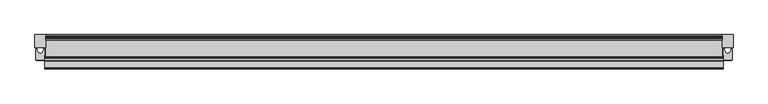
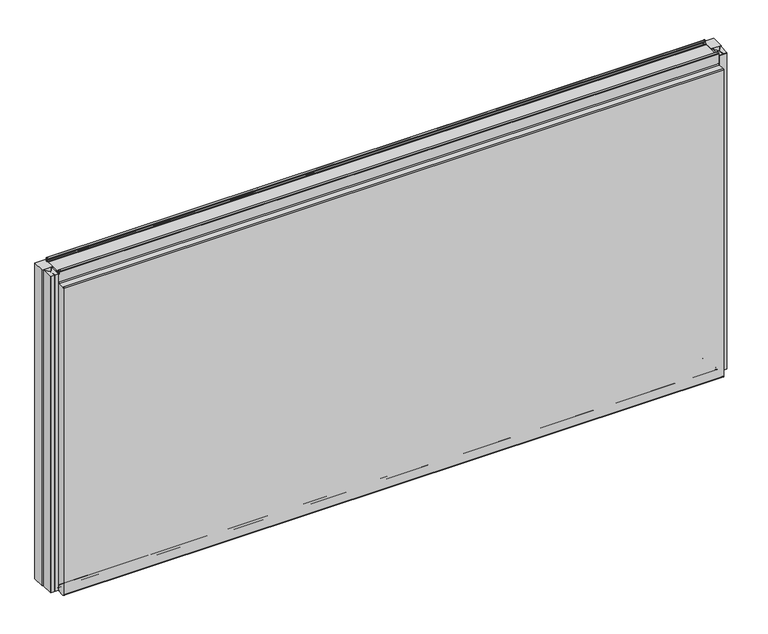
"""IFC4 building model written with IfcOpenShell, lengths in millimetres: plate geometry, Fronttop : Fronttop 100/1000."""

import ifcopenshell
import ifcopenshell.guid

model = None  # the IFC model being written
_history = None  # IfcOwnerHistory: only IFC2X3 demands one
_inside = {}  # id of a spatial element -> (the spatial element, [elements in it])
_under = {}  # id of a project, library or spatial element -> (it, [spatial elements below it])
_declared = {}  # id of a project -> (the project, [libraries it declares])
_typed = {}  # id of a type object -> (the type object, [elements of that type])
_made_of = {}  # id of a material, layer set ... -> (it, [elements and type objects made of it])


def new_model(schema):
    """Start an empty IFC model of exactly this schema.

    Asked for "IFC4X3", IfcOpenShell would pick the latest addendum, in which some entities
    have other attributes; the version numbers below select the first issue.
    IFC2X3 requires an IfcOwnerHistory on every rooted entity: one is made here for all.
    """
    global model, _history
    if schema == "IFC4X3":
        model = ifcopenshell.file(schema_version=(4, 3, 0, 0))
    else:
        model = ifcopenshell.file(schema=schema)
    _inside.clear()
    _under.clear()
    _declared.clear()
    _typed.clear()
    _made_of.clear()
    _history = None
    if model.schema == "IFC2X3":
        org = make("IfcOrganization", Name="unknown")
        user = make(
            "IfcPersonAndOrganization",
            ThePerson=make("IfcPerson", FamilyName="unknown"),
            TheOrganization=org,
        )
        app = make(
            "IfcApplication",
            ApplicationDeveloper=org,
            Version="unknown",
            ApplicationFullName="unknown",
            ApplicationIdentifier="unknown",
        )
        _history = make(
            "IfcOwnerHistory",
            OwningUser=user,
            OwningApplication=app,
            ChangeAction="ADDED",
            CreationDate=0,
        )
    return model


def make(cls, **values):
    """One entity of the class cls with the attributes given. An attribute that is None is left unset."""
    return model.create_entity(
        cls, **{name: value for name, value in values.items() if value is not None}
    )


def rooted(cls, **values):
    """An entity with a GlobalId (a new one), such as an element, a storey or a relation."""
    return make(cls, GlobalId=ifcopenshell.guid.new(), OwnerHistory=_history, **values)


def si_unit(unit_type, name, prefix=None):
    """IfcSIUnit, for example si_unit("LENGTHUNIT", "METRE", prefix="MILLI")."""
    return make("IfcSIUnit", UnitType=unit_type, Prefix=prefix, Name=name)


def assignment(units):
    """IfcUnitAssignment: the units of a project."""
    return None if units is None else make("IfcUnitAssignment", Units=units)


def point(xyz):
    """IfcCartesianPoint."""
    return None if xyz is None else make("IfcCartesianPoint", Coordinates=xyz)


def direction(xyz):
    """IfcDirection."""
    return None if xyz is None else make("IfcDirection", DirectionRatios=xyz)


def frame(location, z_axis=None, x_axis=None):
    """IfcAxis2Placement3D, a coordinate frame: its origin and axes. An axis left out is left unset."""
    return make(
        "IfcAxis2Placement3D",
        Location=point(location),
        Axis=direction(z_axis),
        RefDirection=direction(x_axis),
    )


def frame_2d(location, x_axis=None):
    """IfcAxis2Placement2D, a coordinate frame in the plane: its origin and x axis."""
    return make(
        "IfcAxis2Placement2D", Location=point(location), RefDirection=direction(x_axis)
    )


def origin():
    """The frame at (0, 0, 0) with its axes left unset."""
    return frame((0.0, 0.0, 0.0))


def origin_with_axes():
    """The frame at (0, 0, 0) with the z axis (0, 0, 1) and the x axis (1, 0, 0) written out."""
    return frame((0.0, 0.0, 0.0), z_axis=(0.0, 0.0, 1.0), x_axis=(1.0, 0.0, 0.0))


def place(relative_to, where):
    """IfcLocalPlacement: puts the frame where relative to a parent placement (None: the world)."""
    return make(
        "IfcLocalPlacement", PlacementRelTo=relative_to, RelativePlacement=where
    )


def context(
    kind, dimensions, precision=None, world=None, true_north=None, identifier=None
):
    """IfcGeometricRepresentationContext, for example the 3D "Model" context."""
    return make(
        "IfcGeometricRepresentationContext",
        ContextIdentifier=identifier,
        ContextType=kind,
        CoordinateSpaceDimension=dimensions,
        Precision=precision,
        WorldCoordinateSystem=world,
        TrueNorth=true_north,
    )


def project(units=None, contexts=None):
    """IfcProject with its units and contexts."""
    return rooted(
        "IfcProject",
        Name="project",
        RepresentationContexts=contexts,
        UnitsInContext=assignment(units),
    )


def spatial(cls, under=None, at=None, **own):
    """A site, building, storey or space (cls), placed at a placement, below another one or the project."""
    s = rooted(cls, ObjectPlacement=at, **own)
    if under is not None:
        _under.setdefault(under.id(), (under, []))[1].append(s)
    return s


def polyline(points):
    """IfcPolyline through the points."""
    return make("IfcPolyline", Points=[point(p) for p in points])


def circle_curve(where, radius):
    """IfcCircle in the frame where."""
    return make("IfcCircle", Position=where, Radius=radius)


def trimmed(basis, trim1, trim2, sense, master):
    """IfcTrimmedCurve: the piece of a basis curve between two trims."""
    return make(
        "IfcTrimmedCurve",
        BasisCurve=basis,
        Trim1=trim1,
        Trim2=trim2,
        SenseAgreement=sense,
        MasterRepresentation=master,
    )


def segment(curve, same_sense, transition):
    """IfcCompositeCurveSegment."""
    return make(
        "IfcCompositeCurveSegment",
        Transition=transition,
        SameSense=same_sense,
        ParentCurve=curve,
    )


def composite_curve(segments, self_intersect=None):
    """IfcCompositeCurve: segments joined end to end."""
    return make("IfcCompositeCurve", Segments=segments, SelfIntersect=self_intersect)


def outline(outer, holes=None, kind="AREA"):
    """IfcArbitraryClosedProfileDef: a profile drawn as a closed curve; with holes, ...WithVoids."""
    if holes is None:
        return make("IfcArbitraryClosedProfileDef", ProfileType=kind, OuterCurve=outer)
    return make(
        "IfcArbitraryProfileDefWithVoids",
        ProfileType=kind,
        OuterCurve=outer,
        InnerCurves=holes,
    )


def extrude(swept, where, along, depth):
    """IfcExtrudedAreaSolid: the profile swept, set in the frame where, extruded along a direction by depth."""
    return make(
        "IfcExtrudedAreaSolid",
        SweptArea=swept,
        Position=where,
        ExtrudedDirection=direction(along),
        Depth=depth,
    )


def shape(context_of_items, identifier, shape_type, items):
    """IfcShapeRepresentation: the items that make up one representation, for example the "Body"."""
    return make(
        "IfcShapeRepresentation",
        ContextOfItems=context_of_items,
        RepresentationIdentifier=identifier,
        RepresentationType=shape_type,
        Items=items,
    )


def source(mapping_origin, context_of_items, identifier, shape_type, items):
    """IfcRepresentationMap: a shape defined once, which mapped items show again and again."""
    return make(
        "IfcRepresentationMap",
        MappingOrigin=mapping_origin,
        MappedRepresentation=shape(context_of_items, identifier, shape_type, items),
    )


def transform(
    local_origin,
    x_axis=None,
    y_axis=None,
    z_axis=None,
    scale=None,
    scale2=None,
    scale3=None,
    uniform=True,
):
    """IfcCartesianTransformationOperator3D, or its non-uniform kind. x_axis, y_axis, z_axis: its Axis1, 2, 3."""
    if uniform:
        return make(
            "IfcCartesianTransformationOperator3D",
            Axis1=direction(x_axis),
            Axis2=direction(y_axis),
            LocalOrigin=point(local_origin),
            Scale=scale,
            Axis3=direction(z_axis),
        )
    return make(
        "IfcCartesianTransformationOperator3DnonUniform",
        Axis1=direction(x_axis),
        Axis2=direction(y_axis),
        LocalOrigin=point(local_origin),
        Scale=scale,
        Axis3=direction(z_axis),
        Scale2=scale2,
        Scale3=scale3,
    )


def mapped(mapping_source, mapping_target):
    """IfcMappedItem: shows the shape of a source again, moved by a transform."""
    return make(
        "IfcMappedItem", MappingSource=mapping_source, MappingTarget=mapping_target
    )


def made_of(thing, what):
    """Note that an element or type object is made of a material, layer set ...; save() writes the relation."""
    if what is not None:
        _made_of.setdefault(what.id(), (what, []))[1].append(thing)
    return thing


def element(
    cls,
    number,
    at=None,
    inside=None,
    cuts=None,
    type_object=None,
    material=None,
    context=None,
    identifier="Body",
    shape_type=None,
    held_by="IfcProductDefinitionShape",
    body=None,
    shapes=None,
    **own,
):
    """One element of the class cls, such as IfcWall. Its Tag is "e" and its number.

    at: its placement. inside: the storey or other place that contains it. cuts: it is an
    opening in that element (IfcRelVoidsElement). A single representation is given by context,
    identifier, shape_type and body (its items); several are given by shapes. held_by: the class
    of the entity that holds the representations. save() writes the other relations.
    """
    e = rooted(cls, Tag="e%d" % number, ObjectPlacement=at, **own)
    if body is not None:
        shapes = [shape(context, identifier, shape_type, body)]
    if shapes is not None:
        e.Representation = make(held_by, Representations=shapes)
    if inside is not None:
        _inside.setdefault(inside.id(), (inside, []))[1].append(e)
    if cuts is not None:
        rooted(
            "IfcRelVoidsElement", RelatingBuildingElement=cuts, RelatedOpeningElement=e
        )
    if type_object is not None:
        _typed.setdefault(type_object.id(), (type_object, []))[1].append(e)
    return made_of(e, material)


def aggregate(whole, parts):
    """IfcRelAggregates: a whole, such as a stair, and the parts it consists of."""
    return rooted("IfcRelAggregates", RelatingObject=whole, RelatedObjects=parts)


def save(model, path):
    """Write the relations noted so far, then the file.

    IfcRelAggregates (storeys below a building ...), IfcRelContainedInSpatialStructure (elements
    in a storey), IfcRelDefinesByType, IfcRelAssociatesMaterial and IfcRelDeclares: one each for
    every whole, place, type object, material and project.
    """
    for whole, parts in _under.values():
        aggregate(whole, parts)
    for where, things in _inside.values():
        rooted(
            "IfcRelContainedInSpatialStructure",
            RelatedElements=things,
            RelatingStructure=where,
        )
    for kind, things in _typed.values():
        rooted("IfcRelDefinesByType", RelatedObjects=things, RelatingType=kind)
    for what, things in _made_of.values():
        rooted("IfcRelAssociatesMaterial", RelatedObjects=things, RelatingMaterial=what)
    for by, libraries in _declared.values():
        rooted("IfcRelDeclares", RelatingContext=by, RelatedDefinitions=libraries)
    model.write(path)


def plane_surface(at):
    """IfcPlane: the flat surface through the origin of the frame at, square to its z axis."""
    return make("IfcPlane", Position=at)


def cylinder_surface(at, radius):
    """IfcCylindricalSurface: all points at the distance radius from the z axis of the frame at."""
    return make("IfcCylindricalSurface", Position=at, Radius=radius)


def revolved_surface(curve, axis_point, axis_direction):
    """IfcSurfaceOfRevolution: the curve turned about the line through axis_point along axis_direction."""
    return make(
        "IfcSurfaceOfRevolution",
        SweptCurve=make("IfcArbitraryOpenProfileDef", ProfileType="CURVE", Curve=curve),
        AxisPosition=make("IfcAxis1Placement", Location=point(axis_point), Axis=direction(axis_direction)),
    )


def advanced_brep(points, edges, surfaces, faces):
    """IfcAdvancedBrep: a solid bounded by faces that lie on surfaces and meet in shared edges.

    An edge is (start, end): straight between two places in points (the first is 0);
    or (start, end, curve); or (start, end, curve, False) where it runs against its curve.
    A face is (place in surfaces, loops), or (place, loops, False) where it looks against
    its surface's normal. A loop lists edges by number (the first is 1), with a minus sign
    where the edge is run from its end to its start. The first loop is the outer one.
    """
    corners = [point(p) for p in points]
    vertices = [make("IfcVertexPoint", VertexGeometry=c) for c in corners]
    made = []
    for start, end, *more in edges:
        made.append(
            make(
                "IfcEdgeCurve",
                EdgeStart=vertices[start],
                EdgeEnd=vertices[end],
                EdgeGeometry=more[0] if more else make("IfcPolyline", Points=[corners[start], corners[end]]),
                SameSense=more[1] if len(more) > 1 else True,
            )
        )
    hull = []
    for where, loops, *sense in faces:
        bounds = []
        for j, loop in enumerate(loops):
            ring = [make("IfcOrientedEdge", EdgeElement=made[abs(k) - 1], Orientation=k > 0) for k in loop]
            bounds.append(
                make(
                    "IfcFaceOuterBound" if j == 0 else "IfcFaceBound",
                    Bound=make("IfcEdgeLoop", EdgeList=ring),
                    Orientation=True,
                )
            )
        hull.append(make("IfcAdvancedFace", Bounds=bounds, FaceSurface=surfaces[where], SameSense=sense[0] if sense else True))
    return make("IfcAdvancedBrep", Outer=make("IfcClosedShell", CfsFaces=hull))


def plate_abd0d1aa(model_context):
    return source(origin(), model_context, "Body", "SolidModel", [
        advanced_brep(
        [(-986.5, -74.0, 1008.0), (-986.5, -74.0, 1000.0), (-986.5, -75.0, 1000.0), (-986.5, -75.0, 1008.0), (-986.5, -70.0, 1008.0), (-986.5, -70.0, 1004.0), (-986.5, -67.0, 1001.0), (-986.5, -65.0, 1001.0), (-986.5, -65.0, 1000.0), (-986.5, -67.0, 1000.0), (-986.5, -71.0, 1004.0), (-986.5, -71.0, 1008.0), (986.5, -75.0, 1008.0), (986.5, -75.0, 1000.0), (986.5, -74.0, 1000.0), (986.5, -74.0, 1008.0), (986.5, -71.0, 1008.0), (986.5, -71.0, 1004.0), (986.5, -67.0, 1000.0), (986.5, -65.0, 1000.0), (986.5, -65.0, 1001.0), (986.5, -67.0, 1001.0), (986.5, -70.0, 1004.0), (986.5, -70.0, 1008.0), (-986.5, -67.0, 2.0), (-986.5, -65.0, 2.0), (986.5, -65.0, 2.0), (986.5, -67.0, 2.0), (986.5, -69.0, 4.0), (-986.5, -69.0, 4.0), (986.5, -69.0, 8.0), (-986.5, -69.0, 8.0), (986.5, -76.0, 8.0), (-986.5, -76.0, 8.0), (986.5, -76.0, 0.0), (-986.5, -76.0, 0.0), (986.5, -79.0, -3.0), (-986.5, -79.0, -3.0), (986.5, -75.0, -3.0), (987.5, -75.0, -3.0), (987.5, -97.0, -3.0), (986.5, -97.0, -3.0), (-986.5, -97.0, -3.0), (-987.5, -97.0, -3.0), (-987.5, -75.0, -3.0), (-986.5, -75.0, -3.0), (986.5, -100.0, 0.0), (-986.5, -100.0, 0.0), (987.5, -100.0, 0.0), (987.5, -100.0, 969.0), (986.5, -100.0, 969.0), (-986.5, -100.0, 969.0), (-987.5, -100.0, 969.0), (-987.5, -100.0, 0.0), (986.5, -97.0, 972.0), (-986.5, -97.0, 972.0), (987.5, -97.0, 972.0), (987.5, -78.0, 972.0), (986.5, -78.0, 972.0), (-986.5, -78.0, 972.0), (-987.5, -78.0, 972.0), (-987.5, -97.0, 972.0), (986.5, -75.0, 975.0), (-986.5, -75.0, 975.0), (987.5, -75.0, 975.0), (987.5, -75.0, 1000.0), (-987.5, -75.0, 1000.0), (-987.5, -75.0, 975.0), (986.5, -74.0, 975.0), (-986.5, -74.0, 975.0), (986.5, -78.0, 971.0), (-986.5, -78.0, 971.0), (986.5, -97.0, 971.0), (-986.5, -97.0, 971.0), (986.5, -99.0, 969.0), (-986.5, -99.0, 969.0), (986.5, -99.0, 0.0), (-986.5, -99.0, 0.0), (986.5, -97.0, -2.0), (-986.5, -97.0, -2.0), (986.5, -79.0, -2.0), (-986.5, -79.0, -2.0), (986.5, -77.0, 0.0), (-986.5, -77.0, 0.0), (986.5, -77.0, 8.0), (-986.5, -77.0, 8.0), (986.5, -68.0, 8.0), (-986.5, -68.0, 8.0), (986.5, -68.0, 4.0), (-986.5, -68.0, 4.0), (986.5, -67.0, 3.0), (-986.5, -67.0, 3.0), (986.5, -65.0, 3.0), (-986.5, -65.0, 3.0), (987.5, -75.0, 0.0), (987.5, -60.0, 0.0), (987.5, -60.0, 1000.0), (986.5, -60.0, 1000.0), (986.5, -60.0, 0.0), (986.5, -75.0, 0.0), (-987.5, -60.0, 1000.0), (-987.5, -60.0, 0.0), (-987.5, -75.0, 0.0), (-986.5, -60.0, 1000.0), (-986.5, -75.0, 0.0), (-986.5, -60.0, 0.0)],
        [
            (0, 1),
            (1, 2),
            (2, 3),
            (3, 4, circle_curve(frame((-986.5, -72.5, 1008.0), z_axis=(-1.0, 0.0, 0.0), x_axis=(0.0, 1.0, 0.0)), 2.5)),
            (4, 5),
            (5, 6, circle_curve(frame((-986.5, -67.0, 1004.0), z_axis=(1.0, 0.0, 0.0), x_axis=(0.0, 1.0, 0.0)), 3.0)),
            (6, 7),
            (7, 8),
            (8, 9),
            (9, 10, circle_curve(frame((-986.5, -67.0, 1004.0), z_axis=(-1.0, 0.0, 0.0), x_axis=(0.0, 1.0, 0.0)), 4.0)),
            (10, 11),
            (11, 0, circle_curve(frame((-986.5, -72.5, 1008.0), z_axis=(1.0, 0.0, 0.0), x_axis=(0.0, 1.0, 0.0)), 1.5)),
            (12, 13),
            (13, 14),
            (14, 15),
            (15, 16, circle_curve(frame((986.5, -72.5, 1008.0), z_axis=(-1.0, 0.0, 0.0), x_axis=(0.0, 1.0, 0.0)), 1.5)),
            (16, 17),
            (17, 18, circle_curve(frame((986.5, -67.0, 1004.0), z_axis=(1.0, 0.0, 0.0), x_axis=(0.0, 1.0, 0.0)), 4.0)),
            (18, 19),
            (19, 20),
            (20, 21),
            (21, 22, circle_curve(frame((986.5, -67.0, 1004.0), z_axis=(-1.0, 0.0, 0.0), x_axis=(0.0, 1.0, 0.0)), 3.0)),
            (22, 23),
            (23, 12, circle_curve(frame((986.5, -72.5, 1008.0), z_axis=(1.0, 0.0, 0.0), x_axis=(0.0, 1.0, 0.0)), 2.5)),
            (24, 25),
            (25, 26),
            (26, 27),
            (27, 24),
            (27, 28, circle_curve(frame((986.5, -67.0, 4.0), z_axis=(-1.0, 0.0, 0.0), x_axis=(0.0, 1.0, 0.0)), 2.0)),
            (28, 29),
            (29, 24, circle_curve(frame((-986.5, -67.0, 4.0), z_axis=(1.0, 0.0, 0.0), x_axis=(0.0, 1.0, 0.0)), 2.0)),
            (28, 30),
            (30, 31),
            (31, 29),
            (30, 32, circle_curve(frame((986.5, -72.5, 8.0), z_axis=(1.0, 0.0, 0.0), x_axis=(0.0, 1.0, 0.0)), 3.5)),
            (32, 33),
            (33, 31, circle_curve(frame((-986.5, -72.5, 8.0), z_axis=(-1.0, 0.0, 0.0), x_axis=(0.0, 1.0, 0.0)), 3.5)),
            (32, 34),
            (34, 35),
            (35, 33),
            (34, 36, circle_curve(frame((986.5, -79.0, 0.0), z_axis=(-1.0, 0.0, 0.0), x_axis=(0.0, 1.0, 0.0)), 3.0)),
            (36, 37),
            (37, 35, circle_curve(frame((-986.5, -79.0, 0.0), z_axis=(1.0, 0.0, 0.0), x_axis=(0.0, 1.0, 0.0)), 3.0)),
            (36, 38),
            (38, 39),
            (39, 40),
            (40, 41),
            (41, 42),
            (42, 43),
            (43, 44),
            (44, 45),
            (45, 37),
            (41, 46, circle_curve(frame((986.5, -97.0, 0.0), z_axis=(-1.0, 0.0, 0.0), x_axis=(0.0, 1.0, 0.0)), 3.0)),
            (46, 47),
            (47, 42, circle_curve(frame((-986.5, -97.0, 0.0), z_axis=(1.0, 0.0, 0.0), x_axis=(0.0, 1.0, 0.0)), 3.0)),
            (46, 48),
            (48, 49),
            (49, 50),
            (50, 51),
            (51, 52),
            (52, 53),
            (53, 47),
            (50, 54, circle_curve(frame((986.5, -97.0, 969.0), z_axis=(-1.0, 0.0, 0.0), x_axis=(0.0, 1.0, 0.0)), 3.0)),
            (54, 55),
            (55, 51, circle_curve(frame((-986.5, -97.0, 969.0), z_axis=(1.0, 0.0, 0.0), x_axis=(0.0, 1.0, 0.0)), 3.0)),
            (54, 56),
            (56, 57),
            (57, 58),
            (58, 59),
            (59, 60),
            (60, 61),
            (61, 55),
            (58, 62, circle_curve(frame((986.5, -78.0, 975.0), z_axis=(1.0, 0.0, 0.0), x_axis=(0.0, 1.0, 0.0)), 3.0)),
            (62, 63),
            (63, 59, circle_curve(frame((-986.5, -78.0, 975.0), z_axis=(-1.0, 0.0, 0.0), x_axis=(0.0, 1.0, 0.0)), 3.0)),
            (62, 64),
            (64, 65),
            (65, 13),
            (12, 3),
            (2, 66),
            (66, 67),
            (67, 63),
            (23, 4),
            (22, 5),
            (21, 6),
            (20, 7),
            (19, 8),
            (19, 18),
            (18, 9),
            (9, 8),
            (17, 10),
            (16, 11),
            (15, 0),
            (14, 68),
            (68, 69),
            (69, 1),
            (68, 70, circle_curve(frame((986.5, -78.0, 975.0), z_axis=(-1.0, 0.0, 0.0), x_axis=(0.0, 1.0, 0.0)), 4.0)),
            (70, 71),
            (71, 69, circle_curve(frame((-986.5, -78.0, 975.0), z_axis=(1.0, 0.0, 0.0), x_axis=(0.0, 1.0, 0.0)), 4.0)),
            (70, 72),
            (72, 73),
            (73, 71),
            (72, 74, circle_curve(frame((986.5, -97.0, 969.0), z_axis=(1.0, 0.0, 0.0), x_axis=(0.0, 1.0, 0.0)), 2.0)),
            (74, 75),
            (75, 73, circle_curve(frame((-986.5, -97.0, 969.0), z_axis=(-1.0, 0.0, 0.0), x_axis=(0.0, 1.0, 0.0)), 2.0)),
            (74, 76),
            (76, 77),
            (77, 75),
            (76, 78, circle_curve(frame((986.5, -97.0, 0.0), z_axis=(1.0, 0.0, 0.0), x_axis=(0.0, 1.0, 0.0)), 2.0)),
            (78, 79),
            (79, 77, circle_curve(frame((-986.5, -97.0, 0.0), z_axis=(-1.0, 0.0, 0.0), x_axis=(0.0, 1.0, 0.0)), 2.0)),
            (78, 80),
            (80, 81),
            (81, 79),
            (80, 82, circle_curve(frame((986.5, -79.0, 0.0), z_axis=(1.0, 0.0, 0.0), x_axis=(0.0, 1.0, 0.0)), 2.0)),
            (82, 83),
            (83, 81, circle_curve(frame((-986.5, -79.0, 0.0), z_axis=(-1.0, 0.0, 0.0), x_axis=(0.0, 1.0, 0.0)), 2.0)),
            (82, 84),
            (84, 85),
            (85, 83),
            (84, 86, circle_curve(frame((986.5, -72.5, 8.0), z_axis=(-1.0, 0.0, 0.0), x_axis=(0.0, 1.0, 0.0)), 4.5)),
            (86, 87),
            (87, 85, circle_curve(frame((-986.5, -72.5, 8.0), z_axis=(1.0, 0.0, 0.0), x_axis=(0.0, 1.0, 0.0)), 4.5)),
            (86, 88),
            (88, 89),
            (89, 87),
            (88, 90, circle_curve(frame((986.5, -67.0, 4.0), z_axis=(1.0, 0.0, 0.0), x_axis=(0.0, 1.0, 0.0)), 1.0)),
            (90, 91),
            (91, 89, circle_curve(frame((-986.5, -67.0, 4.0), z_axis=(-1.0, 0.0, 0.0), x_axis=(0.0, 1.0, 0.0)), 1.0)),
            (90, 92),
            (92, 93),
            (93, 91),
            (25, 93),
            (92, 26),
            (64, 57, circle_curve(frame((987.5, -78.0, 975.0), z_axis=(-1.0, 0.0, 0.0), x_axis=(0.0, -1.0, 0.0)), 3.0)),
            (56, 49, circle_curve(frame((987.5, -97.0, 969.0), z_axis=(1.0, 0.0, 0.0), x_axis=(0.0, -1.0, 0.0)), 3.0)),
            (48, 40, circle_curve(frame((987.5, -97.0, 0.0), z_axis=(1.0, 0.0, 0.0), x_axis=(0.0, -1.0, 0.0)), 3.0)),
            (39, 94),
            (94, 95),
            (95, 96),
            (96, 65),
            (14, 18),
            (19, 97),
            (97, 98),
            (98, 99),
            (99, 38),
            (96, 97),
            (95, 98),
            (94, 99),
            (66, 100),
            (100, 101),
            (101, 102),
            (102, 44),
            (43, 53, circle_curve(frame((-987.5, -97.0, 0.0), z_axis=(-1.0, 0.0, 0.0), x_axis=(0.0, -1.0, 0.0)), 3.0)),
            (52, 61, circle_curve(frame((-987.5, -97.0, 969.0), z_axis=(-1.0, 0.0, 0.0), x_axis=(0.0, -1.0, 0.0)), 3.0)),
            (60, 67, circle_curve(frame((-987.5, -78.0, 975.0), z_axis=(1.0, 0.0, 0.0), x_axis=(0.0, -1.0, 0.0)), 3.0)),
            (103, 8),
            (9, 1),
            (45, 104),
            (104, 105),
            (105, 103),
            (103, 100),
            (105, 101),
            (104, 102),
        ],
        [
            plane_surface(frame((-986.5, 0.0, 0.0), z_axis=(-1.0, 0.0, 0.0), x_axis=(0.0, 0.0, 1.0))),
            plane_surface(frame((986.5, 0.0, 0.0), z_axis=(1.0, 0.0, 0.0), x_axis=(0.0, 0.0, 1.0))),
            plane_surface(frame((-986.5, -67.0, 2.0), z_axis=(0.0, 0.0, -1.0), x_axis=(1.0, 0.0, 0.0))),
            cylinder_surface(frame((-986.5, -67.0, 4.0), z_axis=(-1.0, 0.0, 0.0), x_axis=(0.0, 1.0, 0.0)), 2.0),
            plane_surface(frame((-986.5, -69.0, 8.0), z_axis=(0.0, -1.0, 0.0), x_axis=(1.0, 0.0, 0.0))),
            revolved_surface(polyline([(986.5, -69.0, 8.0), (-986.5, -69.0, 8.0)]), (-986.5, -72.5, 8.0), (1.0, 0.0, 0.0)),
            plane_surface(frame((-986.5, -76.0, 0.0), z_axis=(0.0, 1.0, 0.0), x_axis=(1.0, 0.0, 0.0))),
            cylinder_surface(frame((-986.5, -79.0, 0.0), z_axis=(-1.0, 0.0, 0.0), x_axis=(0.0, 1.0, 0.0)), 3.0),
            plane_surface(frame((-986.5, -97.0, -3.0), z_axis=(0.0, 0.0, -1.0), x_axis=(1.0, 0.0, 0.0))),
            cylinder_surface(frame((-986.5, -97.0, 0.0), z_axis=(-1.0, 0.0, 0.0), x_axis=(0.0, 1.0, 0.0)), 3.0),
            plane_surface(frame((-986.5, -100.0, 969.0), z_axis=(0.0, -1.0, 0.0), x_axis=(1.0, 0.0, 0.0))),
            cylinder_surface(frame((-986.5, -97.0, 969.0), z_axis=(-1.0, 0.0, 0.0), x_axis=(0.0, 1.0, 0.0)), 3.0),
            plane_surface(frame((-986.5, -78.0, 972.0), z_axis=(0.0, 0.0, 1.0), x_axis=(1.0, 0.0, 0.0))),
            revolved_surface(polyline([(986.5, -75.0, 975.0), (-986.5, -75.0, 975.0)]), (-986.5, -78.0, 975.0), (1.0, 0.0, 0.0)),
            plane_surface(frame((-986.5, -75.0, 1008.0), z_axis=(0.0, -1.0, 0.0), x_axis=(1.0, 0.0, 0.0))),
            cylinder_surface(frame((-986.5, -72.5, 1008.0), z_axis=(-1.0, 0.0, 0.0), x_axis=(0.0, 1.0, 0.0)), 2.5),
            plane_surface(frame((-986.5, -70.0, 1004.0), z_axis=(0.0, 1.0, 0.0), x_axis=(1.0, 0.0, 0.0))),
            revolved_surface(polyline([(986.5, -64.0, 1004.0), (-986.5, -64.0, 1004.0)]), (-986.5, -67.0, 1004.0), (1.0, 0.0, 0.0)),
            plane_surface(frame((-986.5, -65.0, 1001.0), z_axis=(0.0, 0.0, 1.0), x_axis=(1.0, 0.0, 0.0))),
            plane_surface(frame((-986.5, -65.0, 1000.0), z_axis=(0.0, 1.0, 0.0), x_axis=(1.0, 0.0, 0.0))),
            plane_surface(frame((-986.5, -67.0, 1000.0), z_axis=(0.0, 0.0, -1.0), x_axis=(1.0, 0.0, 0.0))),
            cylinder_surface(frame((-986.5, -67.0, 1004.0), z_axis=(-1.0, 0.0, 0.0), x_axis=(0.0, 1.0, 0.0)), 4.0),
            plane_surface(frame((-986.5, -71.0, 1008.0), z_axis=(0.0, -1.0, 0.0), x_axis=(1.0, 0.0, 0.0))),
            revolved_surface(polyline([(986.5, -71.0, 1008.0), (-986.5, -71.0, 1008.0)]), (-986.5, -72.5, 1008.0), (1.0, 0.0, 0.0)),
            plane_surface(frame((-986.5, -74.0, 975.0), z_axis=(0.0, 1.0, 0.0), x_axis=(1.0, 0.0, 0.0))),
            cylinder_surface(frame((-986.5, -78.0, 975.0), z_axis=(-1.0, 0.0, 0.0), x_axis=(0.0, 1.0, 0.0)), 4.0),
            plane_surface(frame((-986.5, -97.0, 971.0), z_axis=(0.0, 0.0, -1.0), x_axis=(1.0, 0.0, 0.0))),
            revolved_surface(polyline([(986.5, -95.0, 969.0), (-986.5, -95.0, 969.0)]), (-986.5, -97.0, 969.0), (1.0, 0.0, 0.0)),
            plane_surface(frame((-986.5, -99.0, 0.0), z_axis=(0.0, 1.0, 0.0), x_axis=(1.0, 0.0, 0.0))),
            revolved_surface(polyline([(986.5, -95.0, 0.0), (-986.5, -95.0, 0.0)]), (-986.5, -97.0, 0.0), (1.0, 0.0, 0.0)),
            plane_surface(frame((-986.5, -79.0, -2.0), z_axis=(0.0, 0.0, 1.0), x_axis=(1.0, 0.0, 0.0))),
            revolved_surface(polyline([(986.5, -77.0, 0.0), (-986.5, -77.0, 0.0)]), (-986.5, -79.0, 0.0), (1.0, 0.0, 0.0)),
            plane_surface(frame((-986.5, -77.0, 8.0), z_axis=(0.0, -1.0, 0.0), x_axis=(1.0, 0.0, 0.0))),
            cylinder_surface(frame((-986.5, -72.5, 8.0), z_axis=(-1.0, 0.0, 0.0), x_axis=(0.0, 1.0, 0.0)), 4.5),
            plane_surface(frame((-986.5, -68.0, 4.0), z_axis=(0.0, 1.0, 0.0), x_axis=(1.0, 0.0, 0.0))),
            revolved_surface(polyline([(986.5, -66.0, 4.0), (-986.5, -66.0, 4.0)]), (-986.5, -67.0, 4.0), (1.0, 0.0, 0.0)),
            plane_surface(frame((-986.5, -65.0, 3.0), z_axis=(0.0, 0.0, 1.0), x_axis=(1.0, 0.0, 0.0))),
            plane_surface(frame((-986.5, -65.0, 2.0), z_axis=(0.0, 1.0, 0.0), x_axis=(1.0, 0.0, 0.0))),
            plane_surface(frame((987.5, -75.0, 1000.0), z_axis=(1.0, 0.0, 0.0), x_axis=(0.0, 1.0, 0.0))),
            plane_surface(frame((986.5, -75.0, 1000.0), z_axis=(-1.0, 0.0, 0.0), x_axis=(0.0, -1.0, 0.0))),
            plane_surface(frame((987.5, -75.0, 1000.0), z_axis=(0.0, 0.0, 1.0), x_axis=(-1.0, 0.0, 0.0))),
            plane_surface(frame((987.5, -60.0, 1000.0), z_axis=(0.0, 1.0, 0.0), x_axis=(-1.0, 0.0, 0.0))),
            plane_surface(frame((987.5, -60.0, 0.0), z_axis=(0.0, 0.0, -1.0), x_axis=(-1.0, 0.0, 0.0))),
            cylinder_surface(frame((986.5, -97.0, 0.0), z_axis=(1.0, 0.0, 0.0), x_axis=(0.0, -1.0, 0.0)), 3.0),
            cylinder_surface(frame((986.5, -97.0, 969.0), z_axis=(1.0, 0.0, 0.0), x_axis=(0.0, -1.0, 0.0)), 3.0),
            revolved_surface(polyline([(986.5, -81.0, 975.0), (987.5, -81.0, 975.0)]), (986.5, -78.0, 975.0), (-1.0, 0.0, 0.0)),
            plane_surface(frame((-987.5, -75.0, 1000.0), z_axis=(-1.0, 0.0, 0.0), x_axis=(0.0, -1.0, 0.0))),
            plane_surface(frame((-986.5, -75.0, 1000.0), z_axis=(1.0, 0.0, 0.0), x_axis=(0.0, 1.0, 0.0))),
            plane_surface(frame((-986.5, -75.0, 1000.0), z_axis=(0.0, 0.0, 1.0), x_axis=(-1.0, 0.0, 0.0))),
            plane_surface(frame((-986.5, -60.0, 1000.0), z_axis=(0.0, 1.0, 0.0), x_axis=(-1.0, 0.0, 0.0))),
            plane_surface(frame((-986.5, -60.0, 0.0), z_axis=(0.0, 0.0, -1.0), x_axis=(-1.0, 0.0, 0.0))),
            cylinder_surface(frame((-987.5, -97.0, 0.0), z_axis=(1.0, 0.0, 0.0), x_axis=(0.0, -1.0, 0.0)), 3.0),
            cylinder_surface(frame((-987.5, -97.0, 969.0), z_axis=(1.0, 0.0, 0.0), x_axis=(0.0, -1.0, 0.0)), 3.0),
            revolved_surface(polyline([(-987.5, -81.0, 975.0), (-986.5, -81.0, 975.0)]), (-987.5, -78.0, 975.0), (-1.0, 0.0, 0.0)),
            plane_surface(frame((987.5, -75.0, 0.0), z_axis=(0.0, 1.0, 0.0), x_axis=(-1.0, 0.0, 0.0))),
            plane_surface(frame((-986.5, -75.0, 0.0), z_axis=(0.0, 1.0, 0.0), x_axis=(-1.0, 0.0, 0.0))),
        ],
        [
            (0, [[1, 2, 3, 4, 5, 6, 7, 8, 9, 10, 11, 12]]),
            (1, [[13, 14, 15, 16, 17, 18, 19, 20, 21, 22, 23, 24]]),
            (2, [[25, 26, 27, 28]]),
            (3, [[29, 30, 31, -28]]),
            (4, [[32, 33, 34, -30]]),
            (5, [[35, 36, 37, -33]]),
            (6, [[38, 39, 40, -36]]),
            (7, [[41, 42, 43, -39]]),
            (8, [[44, 45, 46, 47, 48, 49, 50, 51, 52, -42]]),
            (9, [[53, 54, 55, -48]]),
            (10, [[56, 57, 58, 59, 60, 61, 62, -54]]),
            (11, [[63, 64, 65, -59]]),
            (12, [[66, 67, 68, 69, 70, 71, 72, -64]]),
            (13, [[73, 74, 75, -69]]),
            (14, [[76, 77, 78, -13, 79, -3, 80, 81, 82, -74]]),
            (15, [[-79, -24, 83, -4]]),
            (16, [[-83, -23, 84, -5]]),
            (17, [[-84, -22, 85, -6]]),
            (18, [[-85, -21, 86, -7]]),
            (19, [[-86, -20, 87, -8]]),
            (20, [[88, 89, 90, -87]]),
            (21, [[-89, -18, 91, -10]]),
            (22, [[-91, -17, 92, -11]]),
            (23, [[-92, -16, 93, -12]]),
            (24, [[-15, 94, 95, 96, -1, -93]]),
            (25, [[97, 98, 99, -95]]),
            (26, [[100, 101, 102, -98]]),
            (27, [[103, 104, 105, -101]]),
            (28, [[106, 107, 108, -104]]),
            (29, [[109, 110, 111, -107]]),
            (30, [[112, 113, 114, -110]]),
            (31, [[115, 116, 117, -113]]),
            (32, [[118, 119, 120, -116]]),
            (33, [[121, 122, 123, -119]]),
            (34, [[124, 125, 126, -122]]),
            (35, [[127, 128, 129, -125]]),
            (36, [[130, 131, 132, -128]]),
            (37, [[133, -131, 134, -26]]),
            (38, [[-77, 135, -67, 136, -57, 137, -46, 138, 139, 140, 141]]),
            (39, [[-44, -41, -38, -35, -32, -29, -27, -134, -130, -127, -124, -121, -118, -115, -112, -109, -106, -103, -100, -97, -94, 142, -88, 143, 144, 145, 146]]),
            (40, [[147, -143, -19, -142, -14, -78, -141]]),
            (41, [[148, -144, -147, -140]]),
            (42, [[149, -145, -148, -139]]),
            (43, [[-56, -53, -47, -137]]),
            (44, [[-66, -63, -58, -136]]),
            (45, [[-76, -73, -68, -135]]),
            (46, [[150, 151, 152, 153, -50, 154, -61, 155, -71, 156, -81]]),
            (47, [[157, -90, 158, -96, -99, -102, -105, -108, -111, -114, -117, -120, -123, -126, -129, -132, -133, -25, -31, -34, -37, -40, -43, -52, 159, 160, 161]]),
            (48, [[-80, -2, -158, -9, -157, 162, -150]]),
            (49, [[-162, -161, 163, -151]]),
            (50, [[-163, -160, 164, -152]]),
            (51, [[-49, -55, -62, -154]]),
            (52, [[-60, -65, -72, -155]]),
            (53, [[-70, -75, -82, -156]]),
            (54, [[-45, -146, -149, -138]]),
            (55, [[-164, -159, -51, -153]]),
        ],
    ),
        extrude(outline(composite_curve([segment(polyline([(-1012.5001545, -73.5), (-1012.5001545, -40.0), (-1009.75, -40.0), (-1009.75, -42.5)]), True, "CONTINUOUS"), segment(trimmed(circle_curve(frame_2d((-991.9661979, -39.3183984)), 18.0661619), [point((-1009.75, -42.5))], [point((-1000.0, -55.5))], True, "CARTESIAN"), True, "CONTINUOUS"), segment(trimmed(circle_curve(frame_2d((-1008.0338021, -39.3183984)), 18.0661619), [point((-1000.0, -55.5))], [point((-990.25, -42.5))], True, "CARTESIAN"), True, "CONTINUOUS"), segment(polyline([(-990.25, -42.5), (-990.25, -40.0), (-987.4998455, -40.0), (-987.4998455, -73.5), (-999.25, -73.5), (-999.25, -57.5), (-1000.75, -57.5), (-1000.75, -73.5), (-1012.5001545, -73.5)]), True, "CONTINUOUS")], self_intersect=False)), origin_with_axes(), (0.0, 0.0, 1.0), 1000.0),
        extrude(outline(polyline([(-984.5, 0.0), (-984.5, -38.0), (-1015.5, -38.0), (-1015.5, 0.0), (-984.5, 0.0)])), origin_with_axes(), (0.0, 0.0, 1.0), 1000.0),
        extrude(outline(polyline([(-1011.5051154, -75.0), (-1011.5051154, -73.5), (-1000.65, -73.5), (-1000.65, -59.0759655), (-999.3497504, -59.0759655), (-999.3497504, -73.5), (-988.4948846, -73.5), (-988.4948846, -75.0), (-1011.5051154, -75.0)])), origin_with_axes(), (0.0, 0.0, 1.0), 1000.0),
        extrude(outline(composite_curve([segment(polyline([(987.4998455, -73.5), (987.4998455, -40.0), (990.25, -40.0), (990.25, -42.5)]), True, "CONTINUOUS"), segment(trimmed(circle_curve(frame_2d((1008.0338021, -39.3183984)), 18.0661619), [point((990.25, -42.5))], [point((1000.0, -55.5))], True, "CARTESIAN"), True, "CONTINUOUS"), segment(trimmed(circle_curve(frame_2d((991.9661979, -39.3183984)), 18.0661619), [point((1000.0, -55.5))], [point((1009.75, -42.5))], True, "CARTESIAN"), True, "CONTINUOUS"), segment(polyline([(1009.75, -42.5), (1009.75, -40.0), (1012.5001545, -40.0), (1012.5001545, -73.5), (1000.75, -73.5), (1000.75, -57.5), (999.25, -57.5), (999.25, -73.5), (987.4998455, -73.5)]), True, "CONTINUOUS")], self_intersect=False)), origin_with_axes(), (0.0, 0.0, 1.0), 1000.0),
        extrude(outline(polyline([(1015.5, 0.0), (1015.5, -38.0), (984.5, -38.0), (984.5, 0.0), (1015.5, 0.0)])), origin_with_axes(), (0.0, 0.0, 1.0), 1000.0),
        extrude(outline(polyline([(988.4948846, -75.0), (988.4948846, -73.5), (999.35, -73.5), (999.35, -59.0759655), (1000.6502496, -59.0759655), (1000.6502496, -73.5), (1011.5051154, -73.5), (1011.5051154, -75.0), (988.4948846, -75.0)])), origin_with_axes(), (0.0, 0.0, 1.0), 1000.0),
        advanced_brep(
        [(-984.5, -13.0, 1001.0), (-984.5, -10.0, 1004.0), (-984.5, -10.0, 1008.0), (-984.5, -5.0, 1008.0), (-984.5, -5.0, 999.5), (-984.5, -2.2239212, 997.0152907), (-984.5, 0.0, 995.0), (-984.5, 0.0, -0.5), (-984.5, -4.0, -0.5), (-984.5, -4.0, 8.0), (-984.5, -11.0, 8.0), (-984.5, -11.0, 4.0), (-984.5, -13.0, 2.0), (-984.5, -15.0, 2.0), (-984.5, -15.0, 3.0), (-984.5, -13.0, 3.0), (-984.5, -12.0, 4.0), (-984.5, -12.0, 8.0), (-984.5, -3.0, 8.0), (-984.5, -3.0, -0.5), (-984.5, -1.0, -0.5), (-984.5, -1.0, 995.0), (-984.5, -2.1104315, 995.9938837), (-984.5, -6.0, 999.5), (-984.5, -6.0, 1008.0), (-984.5, -9.0, 1008.0), (-984.5, -9.0, 1004.0), (-984.5, -13.0, 1000.0), (-984.5, -15.0, 1000.0), (-984.5, -15.0, 1001.0), (984.5, -13.0, 1001.0), (984.5, -15.0, 1001.0), (984.5, -15.0, 1000.0), (984.5, -13.0, 1000.0), (984.5, -9.0, 1004.0), (984.5, -9.0, 1008.0), (984.5, -6.0, 1008.0), (984.5, -6.0, 999.5), (984.5, -2.1134897, 996.0214069), (984.5, -1.0, 995.0), (984.5, -1.0, -0.5), (984.5, -3.0, -0.5), (984.5, -3.0, 8.0), (984.5, -12.0, 8.0), (984.5, -12.0, 4.0), (984.5, -13.0, 3.0), (984.5, -15.0, 3.0), (984.5, -15.0, 2.0), (984.5, -13.0, 2.0), (984.5, -11.0, 4.0), (984.5, -11.0, 8.0), (984.5, -4.0, 8.0), (984.5, -4.0, -0.5), (984.5, 0.0, -0.5), (984.5, 0.0, 995.0), (984.5, -2.220863, 996.9877675), (984.5, -5.0, 999.5), (984.5, -5.0, 1008.0), (984.5, -10.0, 1008.0), (984.5, -10.0, 1004.0)],
        [
            (0, 1, circle_curve(frame((-984.5, -13.0, 1004.0), z_axis=(1.0, 0.0, 0.0), x_axis=(0.0, 1.0, 0.0)), 3.0)),
            (1, 2),
            (2, 3, circle_curve(frame((-984.5, -7.5, 1008.0), z_axis=(-1.0, 0.0, 0.0), x_axis=(0.0, 1.0, 0.0)), 2.5)),
            (3, 4),
            (4, 5, circle_curve(frame((-984.5, -2.5, 999.5), z_axis=(1.0, 0.0, 0.0), x_axis=(0.0, 1.0, 0.0)), 2.5)),
            (5, 6, circle_curve(frame((-984.5, -2.0, 995.0), z_axis=(-1.0, 0.0, 0.0), x_axis=(0.0, 1.0, 0.0)), 2.0)),
            (6, 7),
            (7, 8, circle_curve(frame((-984.5, -2.0, -0.5), z_axis=(-1.0, 0.0, 0.0), x_axis=(0.0, 1.0, 0.0)), 2.0)),
            (8, 9),
            (9, 10, circle_curve(frame((-984.5, -7.5, 8.0), z_axis=(1.0, 0.0, 0.0), x_axis=(0.0, 1.0, 0.0)), 3.5)),
            (10, 11),
            (11, 12, circle_curve(frame((-984.5, -13.0, 4.0), z_axis=(-1.0, 0.0, 0.0), x_axis=(0.0, 1.0, 0.0)), 2.0)),
            (12, 13),
            (13, 14),
            (14, 15),
            (15, 16, circle_curve(frame((-984.5, -13.0, 4.0), z_axis=(1.0, 0.0, 0.0), x_axis=(0.0, 1.0, 0.0)), 1.0)),
            (16, 17),
            (17, 18, circle_curve(frame((-984.5, -7.5, 8.0), z_axis=(-1.0, 0.0, 0.0), x_axis=(0.0, 1.0, 0.0)), 4.5)),
            (18, 19),
            (19, 20, circle_curve(frame((-984.5, -2.0, -0.5), z_axis=(1.0, 0.0, 0.0), x_axis=(0.0, 1.0, 0.0)), 1.0)),
            (20, 21),
            (21, 22, circle_curve(frame((-984.5, -2.0, 995.0), z_axis=(1.0, 0.0, 0.0), x_axis=(0.0, 1.0, 0.0)), 1.0)),
            (22, 23, circle_curve(frame((-984.5, -2.5, 999.5), z_axis=(-1.0, 0.0, 0.0), x_axis=(0.0, 1.0, 0.0)), 3.5)),
            (23, 24),
            (24, 25, circle_curve(frame((-984.5, -7.5, 1008.0), z_axis=(1.0, 0.0, 0.0), x_axis=(0.0, 1.0, 0.0)), 1.5)),
            (25, 26),
            (26, 27, circle_curve(frame((-984.5, -13.0, 1004.0), z_axis=(-1.0, 0.0, 0.0), x_axis=(0.0, 1.0, 0.0)), 4.0)),
            (27, 28),
            (28, 29),
            (29, 0),
            (30, 31),
            (31, 32),
            (32, 33),
            (33, 34, circle_curve(frame((984.5, -13.0, 1004.0), z_axis=(1.0, 0.0, 0.0), x_axis=(0.0, 1.0, 0.0)), 4.0)),
            (34, 35),
            (35, 36, circle_curve(frame((984.5, -7.5, 1008.0), z_axis=(-1.0, 0.0, 0.0), x_axis=(0.0, 1.0, 0.0)), 1.5)),
            (36, 37),
            (37, 38, circle_curve(frame((984.5, -2.5, 999.5), z_axis=(1.0, 0.0, 0.0), x_axis=(0.0, 1.0, 0.0)), 3.5)),
            (38, 39, circle_curve(frame((984.5, -2.0, 995.0), z_axis=(-1.0, 0.0, 0.0), x_axis=(0.0, 1.0, 0.0)), 1.0)),
            (39, 40),
            (40, 41, circle_curve(frame((984.5, -2.0, -0.5), z_axis=(-1.0, 0.0, 0.0), x_axis=(0.0, 1.0, 0.0)), 1.0)),
            (41, 42),
            (42, 43, circle_curve(frame((984.5, -7.5, 8.0), z_axis=(1.0, 0.0, 0.0), x_axis=(0.0, 1.0, 0.0)), 4.5)),
            (43, 44),
            (44, 45, circle_curve(frame((984.5, -13.0, 4.0), z_axis=(-1.0, 0.0, 0.0), x_axis=(0.0, 1.0, 0.0)), 1.0)),
            (45, 46),
            (46, 47),
            (47, 48),
            (48, 49, circle_curve(frame((984.5, -13.0, 4.0), z_axis=(1.0, 0.0, 0.0), x_axis=(0.0, 1.0, 0.0)), 2.0)),
            (49, 50),
            (50, 51, circle_curve(frame((984.5, -7.5, 8.0), z_axis=(-1.0, 0.0, 0.0), x_axis=(0.0, 1.0, 0.0)), 3.5)),
            (51, 52),
            (52, 53, circle_curve(frame((984.5, -2.0, -0.5), z_axis=(1.0, 0.0, 0.0), x_axis=(0.0, 1.0, 0.0)), 2.0)),
            (53, 54),
            (54, 55, circle_curve(frame((984.5, -2.0, 995.0), z_axis=(1.0, 0.0, 0.0), x_axis=(0.0, 1.0, 0.0)), 2.0)),
            (55, 56, circle_curve(frame((984.5, -2.5, 999.5), z_axis=(-1.0, 0.0, 0.0), x_axis=(0.0, 1.0, 0.0)), 2.5)),
            (56, 57),
            (57, 58, circle_curve(frame((984.5, -7.5, 1008.0), z_axis=(1.0, 0.0, 0.0), x_axis=(0.0, 1.0, 0.0)), 2.5)),
            (58, 59),
            (59, 30, circle_curve(frame((984.5, -13.0, 1004.0), z_axis=(-1.0, 0.0, 0.0), x_axis=(0.0, 1.0, 0.0)), 3.0)),
            (29, 31),
            (30, 0),
            (28, 32),
            (27, 33),
            (26, 34),
            (25, 35),
            (24, 36),
            (23, 37),
            (22, 38),
            (21, 39),
            (20, 40),
            (19, 41),
            (18, 42),
            (17, 43),
            (16, 44),
            (15, 45),
            (14, 46),
            (13, 47),
            (12, 48),
            (11, 49),
            (10, 50),
            (9, 51),
            (8, 52),
            (7, 53),
            (6, 54),
            (5, 55),
            (4, 56),
            (3, 57),
            (2, 58),
            (1, 59),
        ],
        [
            plane_surface(frame((-984.5, 0.0, 0.0), z_axis=(-1.0, 0.0, 0.0), x_axis=(0.0, 0.0, 1.0))),
            plane_surface(frame((984.5, 0.0, 0.0), z_axis=(1.0, 0.0, 0.0), x_axis=(0.0, 0.0, 1.0))),
            plane_surface(frame((-984.5, -13.0, 1001.0), z_axis=(0.0, 0.0, 1.0), x_axis=(1.0, 0.0, 0.0))),
            plane_surface(frame((-984.5, -15.0, 1001.0), z_axis=(0.0, -1.0, 0.0), x_axis=(1.0, 0.0, 0.0))),
            plane_surface(frame((-984.5, -15.0, 1000.0), z_axis=(0.0, 0.0, -1.0), x_axis=(1.0, 0.0, 0.0))),
            cylinder_surface(frame((-984.5, -13.0, 1004.0), z_axis=(-1.0, 0.0, 0.0), x_axis=(0.0, 1.0, 0.0)), 4.0),
            plane_surface(frame((-984.5, -9.0, 1004.0), z_axis=(0.0, 1.0, 0.0), x_axis=(1.0, 0.0, 0.0))),
            revolved_surface(polyline([(984.5, -6.0, 1008.0), (-984.5, -6.0, 1008.0)]), (-984.5, -7.5, 1008.0), (1.0, 0.0, 0.0)),
            plane_surface(frame((-984.5, -6.0, 1008.0), z_axis=(0.0, -1.0, 0.0), x_axis=(1.0, 0.0, 0.0))),
            cylinder_surface(frame((-984.5, -2.5, 999.5), z_axis=(-1.0, 0.0, 0.0), x_axis=(0.0, 1.0, 0.0)), 3.5),
            revolved_surface(polyline([(984.5, -1.0, 995.0), (-984.5, -1.0, 995.0)]), (-984.5, -2.0, 995.0), (1.0, 0.0, 0.0)),
            plane_surface(frame((-984.5, -1.0, 995.0), z_axis=(0.0, -1.0, 0.0), x_axis=(1.0, 0.0, 0.0))),
            revolved_surface(polyline([(984.5, -1.0, -0.5), (-984.5, -1.0, -0.5)]), (-984.5, -2.0, -0.5), (1.0, 0.0, 0.0)),
            plane_surface(frame((-984.5, -3.0, -0.5), z_axis=(0.0, 1.0, 0.0), x_axis=(1.0, 0.0, 0.0))),
            cylinder_surface(frame((-984.5, -7.5, 8.0), z_axis=(-1.0, 0.0, 0.0), x_axis=(0.0, 1.0, 0.0)), 4.5),
            plane_surface(frame((-984.5, -12.0, 8.0), z_axis=(0.0, -1.0, 0.0), x_axis=(1.0, 0.0, 0.0))),
            revolved_surface(polyline([(984.5, -12.0, 4.0), (-984.5, -12.0, 4.0)]), (-984.5, -13.0, 4.0), (1.0, 0.0, 0.0)),
            plane_surface(frame((-984.5, -13.0, 3.0), z_axis=(0.0, 0.0, 1.0), x_axis=(1.0, 0.0, 0.0))),
            plane_surface(frame((-984.5, -15.0, 3.0), z_axis=(0.0, -1.0, 0.0), x_axis=(1.0, 0.0, 0.0))),
            plane_surface(frame((-984.5, -15.0, 2.0), z_axis=(0.0, 0.0, -1.0), x_axis=(1.0, 0.0, 0.0))),
            cylinder_surface(frame((-984.5, -13.0, 4.0), z_axis=(-1.0, 0.0, 0.0), x_axis=(0.0, 1.0, 0.0)), 2.0),
            plane_surface(frame((-984.5, -11.0, 4.0), z_axis=(0.0, 1.0, 0.0), x_axis=(1.0, 0.0, 0.0))),
            revolved_surface(polyline([(984.5, -4.0, 8.0), (-984.5, -4.0, 8.0)]), (-984.5, -7.5, 8.0), (1.0, 0.0, 0.0)),
            plane_surface(frame((-984.5, -4.0, 8.0), z_axis=(0.0, -1.0, 0.0), x_axis=(1.0, 0.0, 0.0))),
            cylinder_surface(frame((-984.5, -2.0, -0.5), z_axis=(-1.0, 0.0, 0.0), x_axis=(0.0, 1.0, 0.0)), 2.0),
            plane_surface(frame((-984.5, 0.0, -0.5), z_axis=(0.0, 1.0, 0.0), x_axis=(1.0, 0.0, 0.0))),
            cylinder_surface(frame((-984.5, -2.0, 995.0), z_axis=(-1.0, 0.0, 0.0), x_axis=(0.0, 1.0, 0.0)), 2.0),
            revolved_surface(polyline([(984.5, 0.0, 999.5), (-984.5, 0.0, 999.5)]), (-984.5, -2.5, 999.5), (1.0, 0.0, 0.0)),
            plane_surface(frame((-984.5, -5.0, 999.5), z_axis=(0.0, 1.0, 0.0), x_axis=(1.0, 0.0, 0.0))),
            cylinder_surface(frame((-984.5, -7.5, 1008.0), z_axis=(-1.0, 0.0, 0.0), x_axis=(0.0, 1.0, 0.0)), 2.5),
            plane_surface(frame((-984.5, -10.0, 1008.0), z_axis=(0.0, -1.0, 0.0), x_axis=(1.0, 0.0, 0.0))),
            revolved_surface(polyline([(984.5, -10.0, 1004.0), (-984.5, -10.0, 1004.0)]), (-984.5, -13.0, 1004.0), (1.0, 0.0, 0.0)),
        ],
        [
            (0, [[1, 2, 3, 4, 5, 6, 7, 8, 9, 10, 11, 12, 13, 14, 15, 16, 17, 18, 19, 20, 21, 22, 23, 24, 25, 26, 27, 28, 29, 30]]),
            (1, [[31, 32, 33, 34, 35, 36, 37, 38, 39, 40, 41, 42, 43, 44, 45, 46, 47, 48, 49, 50, 51, 52, 53, 54, 55, 56, 57, 58, 59, 60]]),
            (2, [[61, -31, 62, -30]]),
            (3, [[63, -32, -61, -29]]),
            (4, [[64, -33, -63, -28]]),
            (5, [[65, -34, -64, -27]]),
            (6, [[66, -35, -65, -26]]),
            (7, [[67, -36, -66, -25]]),
            (8, [[68, -37, -67, -24]]),
            (9, [[69, -38, -68, -23]]),
            (10, [[70, -39, -69, -22]]),
            (11, [[71, -40, -70, -21]]),
            (12, [[72, -41, -71, -20]]),
            (13, [[73, -42, -72, -19]]),
            (14, [[74, -43, -73, -18]]),
            (15, [[75, -44, -74, -17]]),
            (16, [[76, -45, -75, -16]]),
            (17, [[77, -46, -76, -15]]),
            (18, [[78, -47, -77, -14]]),
            (19, [[79, -48, -78, -13]]),
            (20, [[80, -49, -79, -12]]),
            (21, [[81, -50, -80, -11]]),
            (22, [[82, -51, -81, -10]]),
            (23, [[83, -52, -82, -9]]),
            (24, [[84, -53, -83, -8]]),
            (25, [[85, -54, -84, -7]]),
            (26, [[86, -55, -85, -6]]),
            (27, [[87, -56, -86, -5]]),
            (28, [[88, -57, -87, -4]]),
            (29, [[89, -58, -88, -3]]),
            (30, [[90, -59, -89, -2]]),
            (31, [[-62, -60, -90, -1]]),
        ],
    ),
        extrude(outline(composite_curve([segment(polyline([(-15.0, 3.0), (-15.0, 0.0), (-65.0, 0.0), (-65.0, 3.0), (-67.0, 3.0)]), True, "CONTINUOUS"), segment(trimmed(circle_curve(frame_2d((-67.0, 4.0)), 1.0), [point((-67.0, 3.0))], [point((-68.0, 4.0))], False, "CARTESIAN"), True, "CONTINUOUS"), segment(polyline([(-68.0, 4.0), (-68.0, 8.0)]), True, "CONTINUOUS"), segment(trimmed(circle_curve(frame_2d((-72.5, 8.0)), 4.5), [point((-68.0, 8.0))], [point((-77.0, 8.0))], True, "CARTESIAN"), True, "CONTINUOUS"), segment(polyline([(-77.0, 8.0), (-77.0, 0.0)]), True, "CONTINUOUS"), segment(trimmed(circle_curve(frame_2d((-79.0, 0.0)), 2.0), [point((-77.0, 0.0))], [point((-79.0, -2.0))], False, "CARTESIAN"), True, "CONTINUOUS"), segment(polyline([(-79.0, -2.0), (-97.0, -2.0)]), True, "CONTINUOUS"), segment(trimmed(circle_curve(frame_2d((-97.0, 0.0)), 2.0), [point((-97.0, -2.0))], [point((-99.0, 0.0))], False, "CARTESIAN"), True, "CONTINUOUS"), segment(polyline([(-99.0, 0.0), (-99.0, 969.0)]), True, "CONTINUOUS"), segment(trimmed(circle_curve(frame_2d((-97.0, 969.0)), 2.0), [point((-99.0, 969.0))], [point((-97.0, 971.0))], False, "CARTESIAN"), True, "CONTINUOUS"), segment(polyline([(-97.0, 971.0), (-78.0, 971.0)]), True, "CONTINUOUS"), segment(trimmed(circle_curve(frame_2d((-78.0, 975.0)), 4.0), [point((-78.0, 971.0))], [point((-74.0, 975.0))], True, "CARTESIAN"), True, "CONTINUOUS"), segment(polyline([(-74.0, 975.0), (-74.0, 1008.0)]), True, "CONTINUOUS"), segment(trimmed(circle_curve(frame_2d((-72.5, 1008.0)), 1.5), [point((-74.0, 1008.0))], [point((-71.0, 1008.0))], False, "CARTESIAN"), True, "CONTINUOUS"), segment(polyline([(-71.0, 1008.0), (-71.0, 1004.0)]), True, "CONTINUOUS"), segment(trimmed(circle_curve(frame_2d((-67.0, 1004.0)), 4.0), [point((-71.0, 1004.0))], [point((-67.0, 1000.0))], True, "CARTESIAN"), True, "CONTINUOUS"), segment(polyline([(-67.0, 1000.0), (-13.0, 1000.0)]), True, "CONTINUOUS"), segment(trimmed(circle_curve(frame_2d((-13.0, 1004.0)), 4.0), [point((-13.0, 1000.0))], [point((-9.0, 1004.0))], True, "CARTESIAN"), True, "CONTINUOUS"), segment(polyline([(-9.0, 1004.0), (-9.0, 1008.0)]), True, "CONTINUOUS"), segment(trimmed(circle_curve(frame_2d((-7.5, 1008.0)), 1.5), [point((-9.0, 1008.0))], [point((-6.0, 1008.0))], False, "CARTESIAN"), True, "CONTINUOUS"), segment(polyline([(-6.0, 1008.0), (-6.0, 999.5)]), True, "CONTINUOUS"), segment(trimmed(circle_curve(frame_2d((-2.5, 999.5)), 3.5), [point((-6.0, 999.5))], [point((-2.1111111, 996.021672))], True, "CARTESIAN"), True, "CONTINUOUS"), segment(trimmed(circle_curve(frame_2d((-2.0, 995.0278643)), 1.0), [point((-2.1111111, 996.021672))], [point((-1.0, 995.0278643))], False, "CARTESIAN"), True, "CONTINUOUS"), segment(polyline([(-1.0, 995.0278643), (-1.0, -0.5)]), True, "CONTINUOUS"), segment(trimmed(circle_curve(frame_2d((-2.0, -0.5)), 1.0), [point((-1.0, -0.5))], [point((-3.0, -0.5))], False, "CARTESIAN"), True, "CONTINUOUS"), segment(polyline([(-3.0, -0.5), (-3.0, 8.0)]), True, "CONTINUOUS"), segment(trimmed(circle_curve(frame_2d((-7.5, 8.0)), 4.5), [point((-3.0, 8.0))], [point((-12.0, 8.0))], True, "CARTESIAN"), True, "CONTINUOUS"), segment(polyline([(-12.0, 8.0), (-12.0, 4.0)]), True, "CONTINUOUS"), segment(trimmed(circle_curve(frame_2d((-13.0, 4.0)), 1.0), [point((-12.0, 4.0))], [point((-13.0, 3.0))], False, "CARTESIAN"), True, "CONTINUOUS"), segment(polyline([(-13.0, 3.0), (-15.0, 3.0)]), True, "CONTINUOUS")], self_intersect=False)), frame((-984.5, 0.0, 0.0), z_axis=(1.0, 0.0, 0.0), x_axis=(0.0, 1.0, 0.0)), (0.0, 0.0, 1.0), 1969.0),
    ])


if __name__ == "__main__":
    model = new_model("IFC4")
    model_context = context("Model", 3, world=origin())
    ifc_project = project(units=[si_unit("LENGTHUNIT", "METRE", prefix="MILLI")], contexts=[model_context])
    site = spatial("IfcSite", under=ifc_project)
    building = spatial("IfcBuilding", under=site)
    placement = place(None, origin())
    plate_shape = plate_abd0d1aa(model_context)
    element("IfcPlate", 1, ObjectType="Fronttop : Fronttop 100/1000", at=placement, inside=building, context=model_context, shape_type="MappedRepresentation", body=[
        mapped(plate_shape, transform((0.0, 0.0, 0.0), x_axis=(1.0, 0.0, 0.0), y_axis=(0.0, 1.0, 0.0), z_axis=(0.0, 0.0, 1.0))),
    ])
    save(model, "model.ifc")
